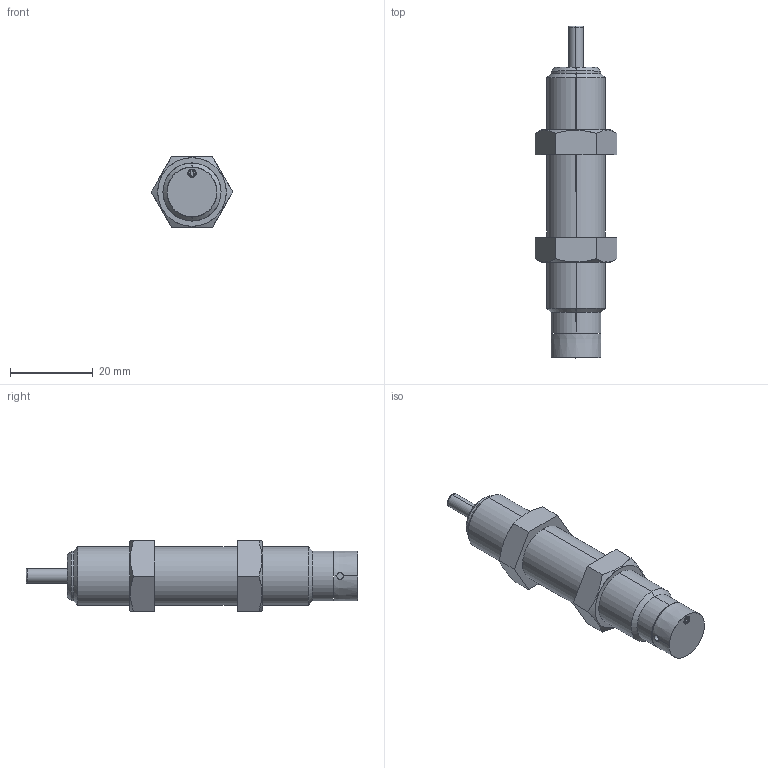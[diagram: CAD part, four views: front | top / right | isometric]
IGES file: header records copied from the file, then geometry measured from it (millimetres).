
Start section: SolidWorks IGES file using analytic representation for surfaces
Bounding box: 19.63 x 80 x 17.03 mm (x, y, z)
Surface area: 4934.5 mm2 (no closed solid volume)
Topology: 0 solids, 0 shells, 70 faces, 1074 edges, 1074 vertices
Faces by surface type: bspline 38, revolution 32
